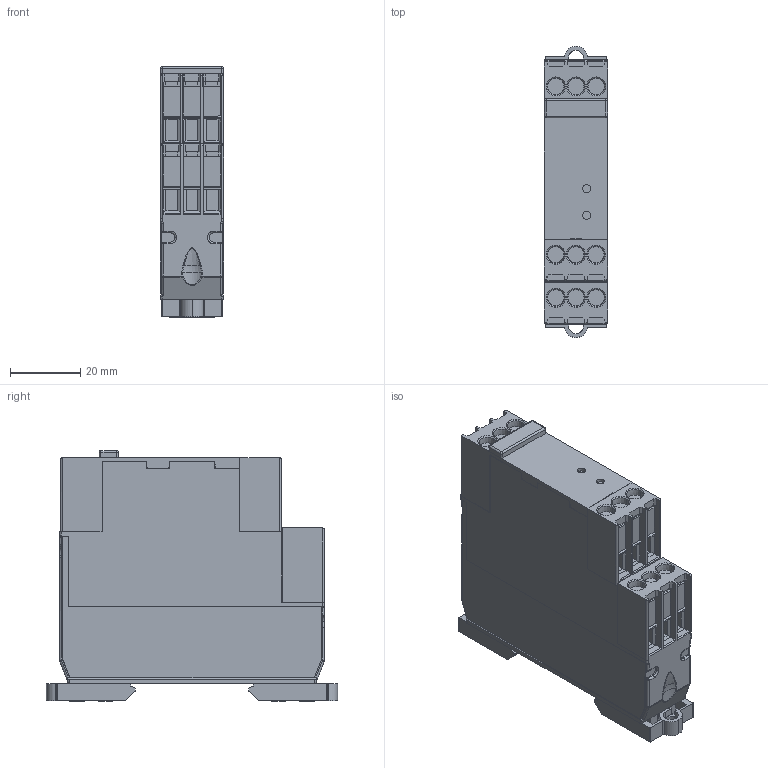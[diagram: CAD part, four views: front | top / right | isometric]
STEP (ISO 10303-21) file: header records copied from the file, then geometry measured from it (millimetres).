
FILE_DESCRIPTION (( 'STEP AP214' ), '1' );
FILE_NAME ('C203.xx.STEP', '2024-04-04T09:21:55', ( '' ), ( '' ), 'SwSTEP 2.0', 'SolidWorks 2022', '' );
FILE_SCHEMA (( 'AUTOMOTIVE_DESIGN' ));
Length unit declared in the file: millimetre
Products named in the file (1): C203.xx
Bounding box: 18.14 x 83.2 x 71.55 mm (x, y, z)
Volume: 81173 mm3; surface area: 24564.4 mm2
Topology: 1 solids, 6 shells, 883 faces, 2433 edges, 1535 vertices
Faces by surface type: plane 625, cylinder 160, cone 42, sphere 28, bspline 20, torus 8
Entity records: 37335 total; most frequent: CARTESIAN_POINT 6681, ORIENTED_EDGE 4798, DIRECTION 4007, EDGE_CURVE 2399, LINE 1687, VECTOR 1687, VERTEX_POINT 1515, AXIS2_PLACEMENT_3D 1160
